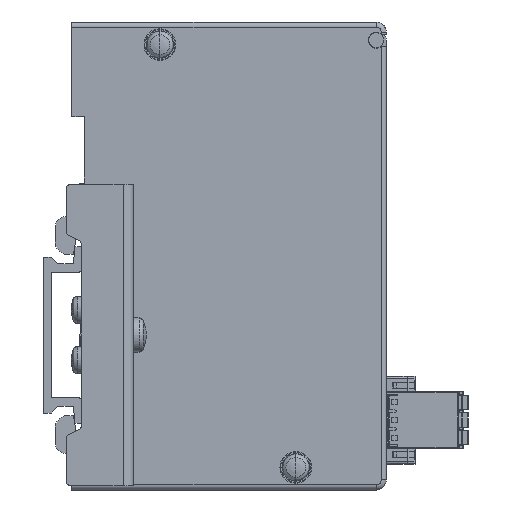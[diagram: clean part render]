
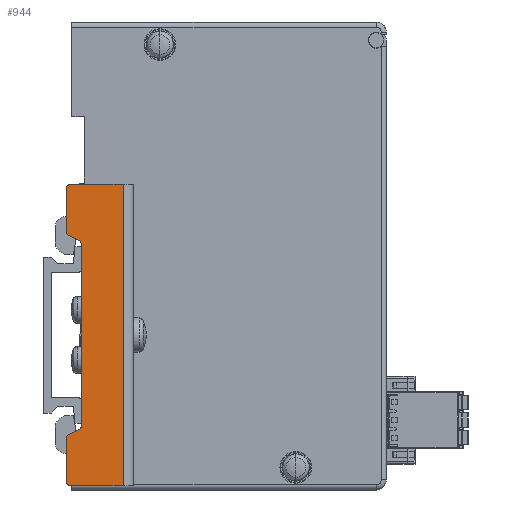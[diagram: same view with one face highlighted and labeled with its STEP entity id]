
A CAD part, left-side view. The second image highlights one B-rep face of the part: STEP entity #944.
In plain terms, the highlighted planar face has unit normal (-1, 0, 0).
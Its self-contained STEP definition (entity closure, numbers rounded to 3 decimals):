
#944=ADVANCED_FACE('',(#9013),#9012,.T.);
#9012=PLANE('',#15221);
#9013=FACE_OUTER_BOUND('',#15222,.T.);
#15218=CARTESIAN_POINT('',(-13.,-3.37,-36.));
#15219=DIRECTION('',(-1.,0.,0.));
#15220=DIRECTION('',(0.,-1.,0.));
#15221=AXIS2_PLACEMENT_3D('',#15218,#15219,#15220);
#15222=EDGE_LOOP('',(#20146,#20147,#20148,#20149,#20150,#20151,#20152,#20153,#20154,#20155,#20156,#20157,#20158,#20159));
#20146=ORIENTED_EDGE('',*,*,#22881,.F.);
#20147=ORIENTED_EDGE('',*,*,#22882,.T.);
#20148=ORIENTED_EDGE('',*,*,#22883,.T.);
#20149=ORIENTED_EDGE('',*,*,#22884,.T.);
#20150=ORIENTED_EDGE('',*,*,#22885,.F.);
#20151=ORIENTED_EDGE('',*,*,#22886,.T.);
#20152=ORIENTED_EDGE('',*,*,#22887,.T.);
#20153=ORIENTED_EDGE('',*,*,#22888,.T.);
#20154=ORIENTED_EDGE('',*,*,#22889,.T.);
#20155=ORIENTED_EDGE('',*,*,#22890,.T.);
#20156=ORIENTED_EDGE('',*,*,#22891,.T.);
#20157=ORIENTED_EDGE('',*,*,#22892,.F.);
#20158=ORIENTED_EDGE('',*,*,#22893,.T.);
#20159=ORIENTED_EDGE('',*,*,#22894,.F.);
#22881=EDGE_CURVE('',#36847,#36848,#36849,.T.);
#22882=EDGE_CURVE('',#36847,#36855,#36856,.T.);
#22883=EDGE_CURVE('',#36855,#36862,#36863,.T.);
#22884=EDGE_CURVE('',#36862,#36869,#36870,.T.);
#22885=EDGE_CURVE('',#36876,#36869,#36877,.T.);
#22886=EDGE_CURVE('',#36876,#36883,#36884,.T.);
#22887=EDGE_CURVE('',#36883,#36890,#36891,.T.);
#22888=EDGE_CURVE('',#36890,#36897,#36898,.T.);
#22889=EDGE_CURVE('',#36897,#36904,#36905,.T.);
#22890=EDGE_CURVE('',#36904,#36911,#36912,.T.);
#22891=EDGE_CURVE('',#36911,#36918,#36919,.T.);
#22892=EDGE_CURVE('',#36925,#36918,#36926,.T.);
#22893=EDGE_CURVE('',#36925,#36932,#36933,.T.);
#22894=EDGE_CURVE('',#36848,#36932,#36939,.T.);
#36847=VERTEX_POINT('',#47080);
#36848=VERTEX_POINT('',#47081);
#36849=LINE('',#47082,#47083);
#36855=VERTEX_POINT('',#47085);
#36856=CIRCLE('',#47089,1.);
#36862=VERTEX_POINT('',#47090);
#36863=LINE('',#47091,#47092);
#36869=VERTEX_POINT('',#47094);
#36870=CIRCLE('',#47098,1.);
#36876=VERTEX_POINT('',#47099);
#36877=LINE('',#47100,#47101);
#36883=VERTEX_POINT('',#47103);
#36884=LINE('',#47104,#47105);
#36890=VERTEX_POINT('',#47107);
#36891=LINE('',#47108,#47109);
#36897=VERTEX_POINT('',#47111);
#36898=CIRCLE('',#47115,1.);
#36904=VERTEX_POINT('',#47116);
#36905=LINE('',#47117,#47118);
#36911=VERTEX_POINT('',#47120);
#36912=CIRCLE('',#47124,1.);
#36918=VERTEX_POINT('',#47125);
#36919=LINE('',#47126,#47127);
#36925=VERTEX_POINT('',#47129);
#36926=CIRCLE('',#47133,1.);
#36932=VERTEX_POINT('',#47134);
#36933=LINE('',#47135,#47136);
#36939=CIRCLE('',#47141,1.);
#47080=CARTESIAN_POINT('',(-13.,-5.077,-19.73));
#47081=CARTESIAN_POINT('',(-13.,-6.923,-18.869));
#47082=CARTESIAN_POINT('',(-13.,-5.077,-19.73));
#47083=VECTOR('',#47084,2.036);
#47084=DIRECTION('',(0.,-0.906,0.423));
#47085=CARTESIAN_POINT('',(-13.,-4.5,-20.636));
#47086=CARTESIAN_POINT('',(-13.,-5.5,-20.636));
#47087=DIRECTION('',(-1.,0.,0.));
#47088=DIRECTION('',(0.,0.,1.));
#47089=AXIS2_PLACEMENT_3D('',#47086,#47087,#47088);
#47090=CARTESIAN_POINT('',(-13.,-4.5,-29.));
#47091=CARTESIAN_POINT('',(-13.,-4.5,-20.636));
#47092=VECTOR('',#47093,8.364);
#47093=DIRECTION('',(0.,0.,-1.));
#47094=CARTESIAN_POINT('',(-13.,-5.5,-30.));
#47095=CARTESIAN_POINT('',(-13.,-5.5,-29.));
#47096=DIRECTION('',(-1.,0.,0.));
#47097=DIRECTION('',(0.,0.,1.));
#47098=AXIS2_PLACEMENT_3D('',#47095,#47096,#47097);
#47099=CARTESIAN_POINT('',(-13.,-15.8,-30.));
#47100=CARTESIAN_POINT('',(-13.,-15.8,-30.));
#47101=VECTOR('',#47102,10.3);
#47102=DIRECTION('',(0.,1.,0.));
#47103=CARTESIAN_POINT('',(-13.,-15.8,30.));
#47104=CARTESIAN_POINT('',(-13.,-15.8,-30.));
#47105=VECTOR('',#47106,60.);
#47106=DIRECTION('',(0.,0.,1.));
#47107=CARTESIAN_POINT('',(-13.,-5.5,30.));
#47108=CARTESIAN_POINT('',(-13.,-15.8,30.));
#47109=VECTOR('',#47110,10.3);
#47110=DIRECTION('',(0.,1.,0.));
#47111=CARTESIAN_POINT('',(-13.,-4.5,29.));
#47112=CARTESIAN_POINT('',(-13.,-5.5,29.));
#47113=DIRECTION('',(-1.,0.,0.));
#47114=DIRECTION('',(0.,0.,1.));
#47115=AXIS2_PLACEMENT_3D('',#47112,#47113,#47114);
#47116=CARTESIAN_POINT('',(-13.,-4.5,20.636));
#47117=CARTESIAN_POINT('',(-13.,-4.5,29.));
#47118=VECTOR('',#47119,8.364);
#47119=DIRECTION('',(0.,0.,-1.));
#47120=CARTESIAN_POINT('',(-13.,-5.077,19.73));
#47121=CARTESIAN_POINT('',(-13.,-5.5,20.636));
#47122=DIRECTION('',(-1.,0.,0.));
#47123=DIRECTION('',(0.,0.,1.));
#47124=AXIS2_PLACEMENT_3D('',#47121,#47122,#47123);
#47125=CARTESIAN_POINT('',(-13.,-6.923,18.869));
#47126=CARTESIAN_POINT('',(-13.,-5.077,19.73));
#47127=VECTOR('',#47128,2.036);
#47128=DIRECTION('',(0.,-0.906,-0.423));
#47129=CARTESIAN_POINT('',(-13.,-7.5,17.963));
#47130=CARTESIAN_POINT('',(-13.,-6.5,17.963));
#47131=DIRECTION('',(-1.,0.,0.));
#47132=DIRECTION('',(0.,0.,1.));
#47133=AXIS2_PLACEMENT_3D('',#47130,#47131,#47132);
#47134=CARTESIAN_POINT('',(-13.,-7.5,-17.963));
#47135=CARTESIAN_POINT('',(-13.,-7.5,17.963));
#47136=VECTOR('',#47137,35.926);
#47137=DIRECTION('',(0.,0.,-1.));
#47138=CARTESIAN_POINT('',(-13.,-6.5,-17.963));
#47139=DIRECTION('',(-1.,0.,0.));
#47140=DIRECTION('',(0.,0.,1.));
#47141=AXIS2_PLACEMENT_3D('',#47138,#47139,#47140);
